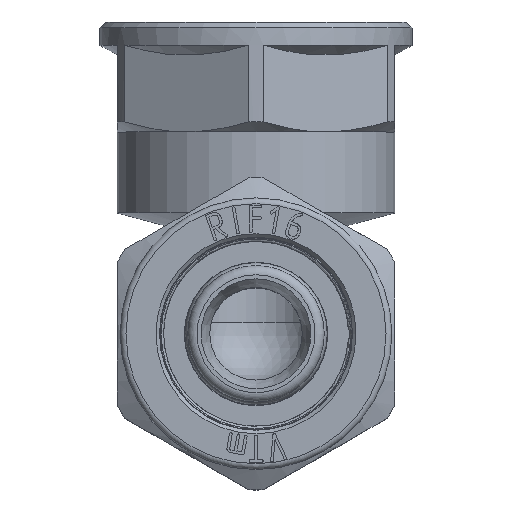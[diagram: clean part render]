
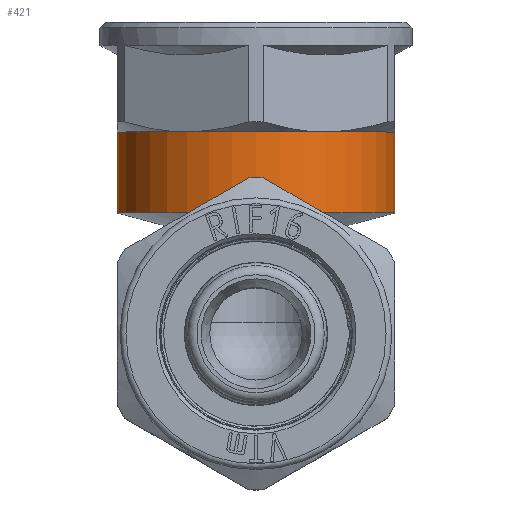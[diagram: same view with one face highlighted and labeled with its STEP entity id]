
A CAD part, top view. The second image highlights one B-rep face of the part: STEP entity #421.
In plain terms, the highlighted cylindrical face has radius 12 mm (diameter 24 mm), a full revolution.
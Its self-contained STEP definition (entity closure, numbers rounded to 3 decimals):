
#421=ADVANCED_FACE('',(#2996,#2998),#3000,.T.);
#2996=FACE_BOUND('',#2997,.T.);
#2997=EDGE_LOOP('',(#6163,#6164,#6165,#6166,#6167,#6168));
#2998=FACE_OUTER_BOUND('',#2999,.T.);
#2999=EDGE_LOOP('',(#6169));
#3000=CYLINDRICAL_SURFACE('',#3001,12.);
#3001=AXIS2_PLACEMENT_3D('',#3002,#3003,#3004);
#3002=CARTESIAN_POINT('',(0.,10.5,0.));
#3003=DIRECTION('',(0.,1.,0.));
#3004=DIRECTION('',(-1.,0.,0.));
#6163=ORIENTED_EDGE('',*,*,#7744,.T.);
#6164=ORIENTED_EDGE('',*,*,#7745,.T.);
#6165=ORIENTED_EDGE('',*,*,#7746,.T.);
#6166=ORIENTED_EDGE('',*,*,#7747,.T.);
#6167=ORIENTED_EDGE('',*,*,#7748,.T.);
#6168=ORIENTED_EDGE('',*,*,#7749,.T.);
#6169=ORIENTED_EDGE('',*,*,#7479,.F.);
#7479=EDGE_CURVE('',#9237,#9237,#9238,.F.);
#7744=EDGE_CURVE('',#9642,#9643,#9644,.F.);
#7745=EDGE_CURVE('',#9643,#9645,#9646,.F.);
#7746=EDGE_CURVE('',#9645,#9647,#9648,.F.);
#7747=EDGE_CURVE('',#9647,#9649,#9650,.F.);
#7748=EDGE_CURVE('',#9649,#9651,#9652,.F.);
#7749=EDGE_CURVE('',#9651,#9642,#9653,.F.);
#9237=VERTEX_POINT('',#13925);
#9238=CIRCLE('',#13926,12.);
#9642=VERTEX_POINT('',#14864);
#9643=VERTEX_POINT('',#14865);
#9644=CIRCLE('',#14866,12.);
#9645=VERTEX_POINT('',#14870);
#9646=CIRCLE('',#14871,12.);
#9647=VERTEX_POINT('',#14875);
#9648=CIRCLE('',#14876,12.);
#9649=VERTEX_POINT('',#14880);
#9650=CIRCLE('',#14881,12.);
#9651=VERTEX_POINT('',#14885);
#9652=CIRCLE('',#14886,12.);
#9653=CIRCLE('',#14890,12.);
#13925=CARTESIAN_POINT('',(-12.,10.5,0.));
#13926=AXIS2_PLACEMENT_3D('',#13927,#13928,#13929);
#13927=CARTESIAN_POINT('',(0.,10.5,0.));
#13928=DIRECTION('',(0.,1.,0.));
#13929=DIRECTION('',(-1.,0.,0.));
#14864=CARTESIAN_POINT('',(12.,17.5,0.));
#14865=CARTESIAN_POINT('',(6.,17.5,10.392));
#14866=AXIS2_PLACEMENT_3D('',#14867,#14868,#14869);
#14867=CARTESIAN_POINT('',(0.,17.5,0.));
#14868=DIRECTION('',(0.,1.,0.));
#14869=DIRECTION('',(0.5,0.,0.866));
#14870=CARTESIAN_POINT('',(-6.,17.5,10.392));
#14871=AXIS2_PLACEMENT_3D('',#14872,#14873,#14874);
#14872=CARTESIAN_POINT('',(0.,17.5,0.));
#14873=DIRECTION('',(0.,1.,0.));
#14874=DIRECTION('',(-0.5,0.,0.866));
#14875=CARTESIAN_POINT('',(-12.,17.5,0.));
#14876=AXIS2_PLACEMENT_3D('',#14877,#14878,#14879);
#14877=CARTESIAN_POINT('',(0.,17.5,0.));
#14878=DIRECTION('',(0.,1.,0.));
#14879=DIRECTION('',(-1.,0.,0.));
#14880=CARTESIAN_POINT('',(-6.,17.5,-10.392));
#14881=AXIS2_PLACEMENT_3D('',#14882,#14883,#14884);
#14882=CARTESIAN_POINT('',(0.,17.5,0.));
#14883=DIRECTION('',(0.,1.,0.));
#14884=DIRECTION('',(-0.5,0.,-0.866));
#14885=CARTESIAN_POINT('',(6.,17.5,-10.392));
#14886=AXIS2_PLACEMENT_3D('',#14887,#14888,#14889);
#14887=CARTESIAN_POINT('',(0.,17.5,0.));
#14888=DIRECTION('',(0.,1.,0.));
#14889=DIRECTION('',(0.5,0.,-0.866));
#14890=AXIS2_PLACEMENT_3D('',#14891,#14892,#14893);
#14891=CARTESIAN_POINT('',(0.,17.5,0.));
#14892=DIRECTION('',(0.,1.,0.));
#14893=DIRECTION('',(1.,0.,0.));
